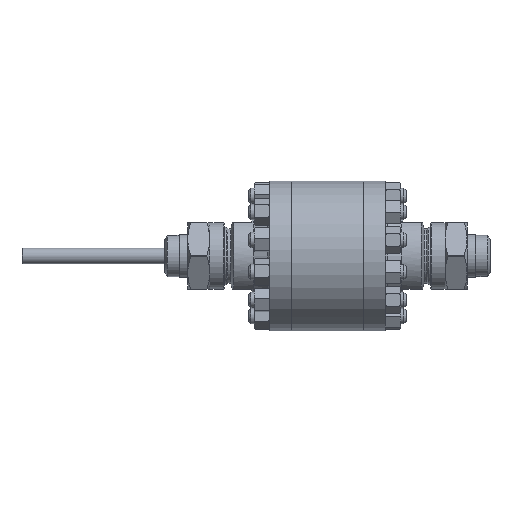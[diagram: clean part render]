
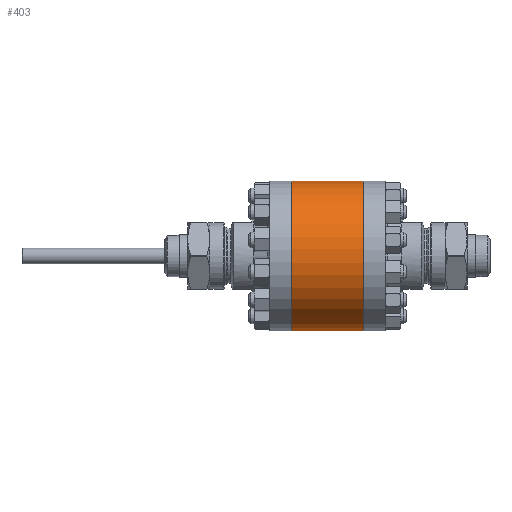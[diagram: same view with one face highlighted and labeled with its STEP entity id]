
A CAD part, front view. The second image highlights one B-rep face of the part: STEP entity #403.
In plain terms, the highlighted cylindrical face has radius 78.5 mm (diameter 157 mm), a partial arc.
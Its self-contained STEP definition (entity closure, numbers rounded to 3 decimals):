
#403=ADVANCED_FACE('',(#5509),#5511,.T.);
#5509=FACE_OUTER_BOUND('',#5510,.T.);
#5510=EDGE_LOOP('',(#11717,#11718,#11719,#11720));
#5511=CYLINDRICAL_SURFACE('',#5512,78.5);
#5512=AXIS2_PLACEMENT_3D('',#5513,#5514,#5515);
#5513=CARTESIAN_POINT('',(-37.5,0.,0.));
#5514=DIRECTION('',(1.,0.,0.));
#5515=DIRECTION('',(0.,1.,0.));
#11717=ORIENTED_EDGE('',*,*,#16455,.T.);
#11718=ORIENTED_EDGE('',*,*,#16465,.T.);
#11719=ORIENTED_EDGE('',*,*,#16490,.F.);
#11720=ORIENTED_EDGE('',*,*,#16458,.T.);
#16455=EDGE_CURVE('',#19084,#19082,#19085,.T.);
#16458=EDGE_CURVE('',#19089,#19084,#19090,.F.);
#16465=EDGE_CURVE('',#19082,#19100,#19102,.T.);
#16490=EDGE_CURVE('',#19089,#19100,#19139,.T.);
#19082=VERTEX_POINT('',#31159);
#19084=VERTEX_POINT('',#31165);
#19085=CIRCLE('',#31166,78.5);
#19089=VERTEX_POINT('',#31180);
#19090=LINE('',#31181,#31182);
#19100=VERTEX_POINT('',#31207);
#19102=LINE('',#31213,#31214);
#19139=CIRCLE('',#31314,78.5);
#31159=CARTESIAN_POINT('',(-37.3,64.,-45.456));
#31165=CARTESIAN_POINT('',(-37.3,64.,45.456));
#31166=AXIS2_PLACEMENT_3D('',#31167,#31168,#31169);
#31167=CARTESIAN_POINT('',(-37.3,0.,0.));
#31168=DIRECTION('',(1.,0.,0.));
#31169=DIRECTION('',(0.,0.815,0.579));
#31180=CARTESIAN_POINT('',(37.3,64.,45.456));
#31181=CARTESIAN_POINT('',(-37.3,64.,45.456));
#31182=VECTOR('',#31183,1.);
#31183=DIRECTION('',(1.,0.,0.));
#31207=CARTESIAN_POINT('',(37.3,64.,-45.456));
#31213=CARTESIAN_POINT('',(-37.3,64.,-45.456));
#31214=VECTOR('',#31215,1.);
#31215=DIRECTION('',(1.,0.,0.));
#31314=AXIS2_PLACEMENT_3D('',#31315,#31316,#31317);
#31315=CARTESIAN_POINT('',(37.3,0.,0.));
#31316=DIRECTION('',(1.,0.,0.));
#31317=DIRECTION('',(0.,0.815,0.579));
